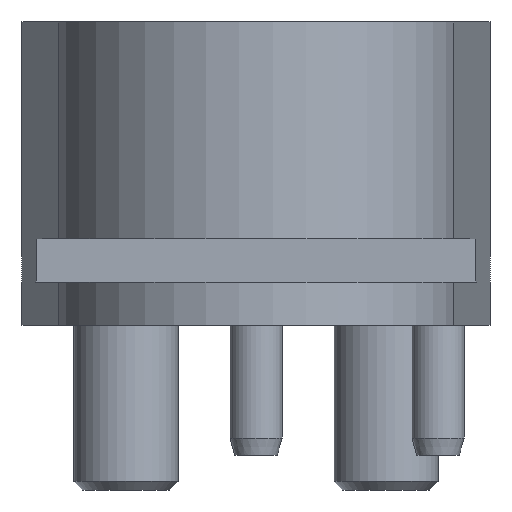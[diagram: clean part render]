
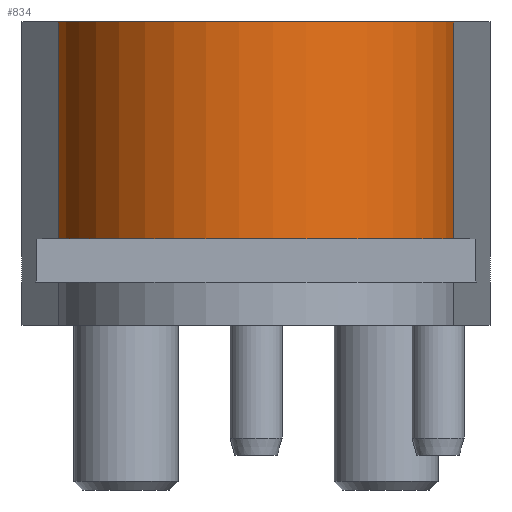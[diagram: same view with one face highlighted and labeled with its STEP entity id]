
A CAD part, left-side view. The second image highlights one B-rep face of the part: STEP entity #834.
In plain terms, the highlighted cylindrical face has radius 23 mm (diameter 46 mm), a partial arc.
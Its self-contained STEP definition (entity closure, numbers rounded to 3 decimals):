
#168=CYLINDRICAL_SURFACE('',#2799,23.);
#294=FACE_OUTER_BOUND('',#1115,.T.);
#476=LINE('',#4234,#674);
#477=LINE('',#4240,#675);
#674=VECTOR('',#3404,1.);
#675=VECTOR('',#3411,1.);
#834=ADVANCED_FACE('',(#294),#168,.T.);
#1115=EDGE_LOOP('',(#1610,#1611,#1612,#1613));
#1610=ORIENTED_EDGE('',*,*,#2342,.F.);
#1611=ORIENTED_EDGE('',*,*,#2341,.T.);
#1612=ORIENTED_EDGE('',*,*,#2343,.F.);
#1613=ORIENTED_EDGE('',*,*,#2344,.F.);
#2035=VERTEX_POINT('',#4228);
#2037=VERTEX_POINT('',#4233);
#2038=VERTEX_POINT('',#4237);
#2039=VERTEX_POINT('',#4239);
#2341=EDGE_CURVE('',#2035,#2037,#476,.T.);
#2342=EDGE_CURVE('',#2035,#2038,#2551,.T.);
#2343=EDGE_CURVE('',#2039,#2037,#2552,.T.);
#2344=EDGE_CURVE('',#2038,#2039,#477,.T.);
#2551=CIRCLE('',#2797,23.);
#2552=CIRCLE('',#2798,23.);
#2797=AXIS2_PLACEMENT_3D('',#4236,#3407,#3408);
#2798=AXIS2_PLACEMENT_3D('',#4238,#3409,#3410);
#2799=AXIS2_PLACEMENT_3D('',#4241,#3412,#3413);
#3404=DIRECTION('',(0.,0.,1.));
#3407=DIRECTION('',(0.,0.,-1.));
#3408=DIRECTION('',(1.,0.,0.));
#3409=DIRECTION('',(0.,0.,1.));
#3410=DIRECTION('',(1.,0.,0.));
#3411=DIRECTION('',(0.,0.,1.));
#3412=DIRECTION('',(0.,0.,1.));
#3413=DIRECTION('',(-1.,0.,0.));
#4228=CARTESIAN_POINT('',(-3.085,-22.792,10.));
#4233=CARTESIAN_POINT('',(-3.085,-22.792,35.));
#4234=CARTESIAN_POINT('',(-3.085,-22.792,5.));
#4236=CARTESIAN_POINT('',(0.,0.,10.));
#4237=CARTESIAN_POINT('',(-3.085,22.792,10.));
#4238=CARTESIAN_POINT('',(0.,0.,35.));
#4239=CARTESIAN_POINT('',(-3.085,22.792,35.));
#4240=CARTESIAN_POINT('',(-3.085,22.792,5.));
#4241=CARTESIAN_POINT('',(0.,0.,0.));
